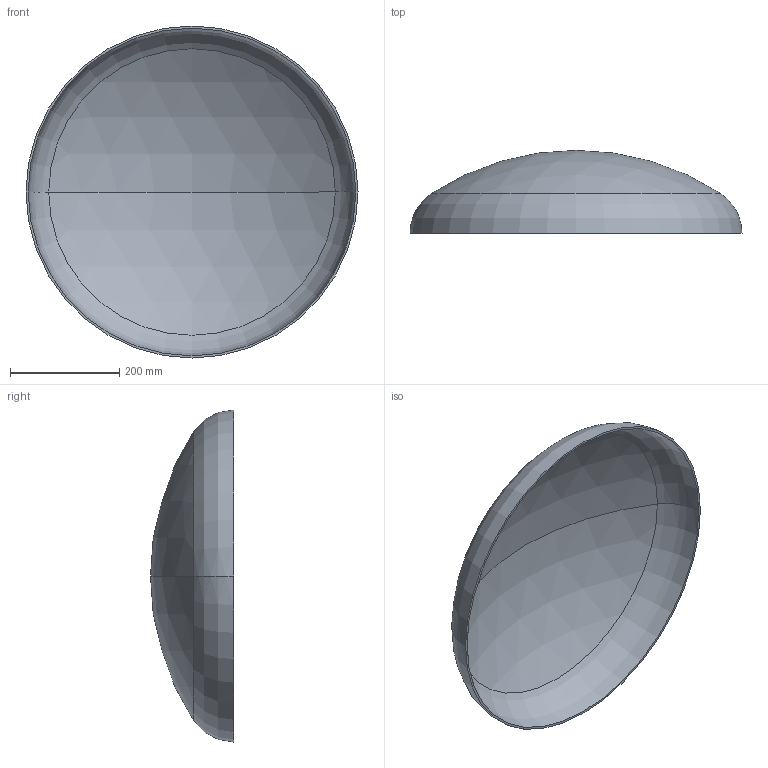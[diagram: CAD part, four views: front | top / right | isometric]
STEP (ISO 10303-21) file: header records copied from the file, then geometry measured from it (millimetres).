
FILE_DESCRIPTION (( 'STEP AP203' ), '1' );
FILE_NAME ('3D_R365_608x4_173375440.STEP', '2024-07-16T07:41:37', ( '' ), ( '' ), 'SwSTEP 2.0', 'SolidWorks 2024', '' );
FILE_SCHEMA (( 'CONFIG_CONTROL_DESIGN' ));
Length unit declared in the file: millimetre
Products named in the file (1): 3D_R365_608x4_173375440
Bounding box: 608 x 152 x 608 mm (x, y, z)
Volume: 1563095.3 mm3; surface area: 789170.9 mm2
Topology: 1 solids, 1 shells, 13 faces, 24 edges, 14 vertices
Faces by surface type: sphere 4, torus 4, cylinder 4, plane 1
Entity records: 407 total; most frequent: DIRECTION 72, CARTESIAN_POINT 52, ORIENTED_EDGE 48, AXIS2_PLACEMENT_3D 34, EDGE_CURVE 24, CIRCLE 20, EDGE_LOOP 14, VERTEX_POINT 14
